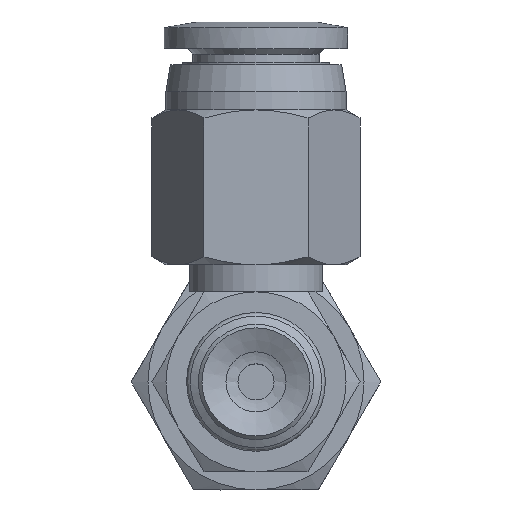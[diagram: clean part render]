
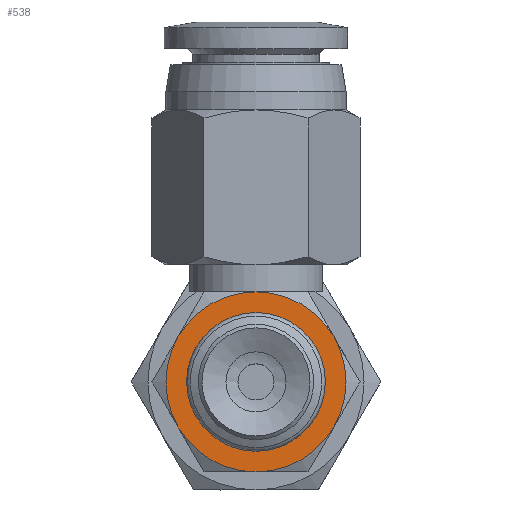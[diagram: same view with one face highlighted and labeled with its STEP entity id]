
A CAD part, front view. The second image highlights one B-rep face of the part: STEP entity #538.
In plain terms, the highlighted planar face has unit normal (0, -1, 0).
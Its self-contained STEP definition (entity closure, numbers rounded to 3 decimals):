
#538=ADVANCED_FACE('',(#814,#815),#816,.T.);
#814=FACE_BOUND('',#1222,.T.);
#815=FACE_OUTER_BOUND('',#1223,.T.);
#816=PLANE('',#1224);
#1222=EDGE_LOOP('',(#2259));
#1223=EDGE_LOOP('',(#2260,#2261,#2262,#2263,#2264,#2265));
#1224=AXIS2_PLACEMENT_3D('',#2266,#2267,#2268);
#2259=ORIENTED_EDGE('',*,*,#2919,.F.);
#2260=ORIENTED_EDGE('',*,*,#2926,.T.);
#2261=ORIENTED_EDGE('',*,*,#2869,.T.);
#2262=ORIENTED_EDGE('',*,*,#2924,.T.);
#2263=ORIENTED_EDGE('',*,*,#2932,.T.);
#2264=ORIENTED_EDGE('',*,*,#2853,.T.);
#2265=ORIENTED_EDGE('',*,*,#2867,.T.);
#2266=CARTESIAN_POINT('',(2.0,0.,0.0));
#2267=DIRECTION('',(0.0,-1.0,0.0));
#2268=DIRECTION('',(0.0,0.0,-1.0));
#2853=EDGE_CURVE('',#3200,#3214,#3216,.T.);
#2867=EDGE_CURVE('',#3214,#3238,#3241,.T.);
#2869=EDGE_CURVE('',#3243,#3231,#3244,.T.);
#2919=EDGE_CURVE('',#3329,#3329,#3330,.T.);
#2924=EDGE_CURVE('',#3231,#3217,#3338,.T.);
#2926=EDGE_CURVE('',#3238,#3243,#3340,.T.);
#2932=EDGE_CURVE('',#3217,#3200,#3349,.T.);
#3200=VERTEX_POINT('',#3982);
#3214=VERTEX_POINT('',#4008);
#3216=CIRCLE('',#4012,5.0);
#3217=VERTEX_POINT('',#4013);
#3231=VERTEX_POINT('',#4038);
#3238=VERTEX_POINT('',#4052);
#3241=CIRCLE('',#4057,5.0);
#3243=VERTEX_POINT('',#4061);
#3244=CIRCLE('',#4062,5.0);
#3329=VERTEX_POINT('',#4242);
#3330=CIRCLE('',#4243,2.0);
#3338=CIRCLE('',#4254,5.0);
#3340=CIRCLE('',#4256,5.0);
#3349=CIRCLE('',#4270,5.0);
#3982=CARTESIAN_POINT('',(-4.33,0.,2.5));
#4008=CARTESIAN_POINT('',(-4.33,0.0,-2.5));
#4012=AXIS2_PLACEMENT_3D('',#4911,#4912,#4913);
#4013=CARTESIAN_POINT('',(0.0,0.0,5.0));
#4038=CARTESIAN_POINT('',(4.33,0.0,2.5));
#4052=CARTESIAN_POINT('',(0.0,0.0,-5.0));
#4057=AXIS2_PLACEMENT_3D('',#4922,#4923,#4924);
#4061=CARTESIAN_POINT('',(4.33,0.0,-2.5));
#4062=AXIS2_PLACEMENT_3D('',#4925,#4926,#4927);
#4242=CARTESIAN_POINT('',(0.0,0.,-2.0));
#4243=AXIS2_PLACEMENT_3D('',#4994,#4995,#4996);
#4254=AXIS2_PLACEMENT_3D('',#5003,#5004,#5005);
#4256=AXIS2_PLACEMENT_3D('',#5009,#5010,#5011);
#4270=AXIS2_PLACEMENT_3D('',#5018,#5019,#5020);
#4911=CARTESIAN_POINT('',(0.0,0.,0.0));
#4912=DIRECTION('',(0.0,-1.0,0.0));
#4913=DIRECTION('',(0.0,0.0,-1.0));
#4922=CARTESIAN_POINT('',(0.0,0.,0.0));
#4923=DIRECTION('',(0.0,-1.0,0.0));
#4924=DIRECTION('',(0.0,0.0,-1.0));
#4925=CARTESIAN_POINT('',(0.0,0.,0.0));
#4926=DIRECTION('',(0.0,-1.0,0.0));
#4927=DIRECTION('',(0.0,0.0,-1.0));
#4994=CARTESIAN_POINT('',(0.0,0.,0.0));
#4995=DIRECTION('',(0.0,-1.0,0.0));
#4996=DIRECTION('',(0.0,0.0,-1.0));
#5003=CARTESIAN_POINT('',(0.0,0.,0.0));
#5004=DIRECTION('',(0.0,-1.0,0.0));
#5005=DIRECTION('',(0.0,0.0,-1.0));
#5009=CARTESIAN_POINT('',(0.0,0.,0.0));
#5010=DIRECTION('',(0.0,-1.0,0.0));
#5011=DIRECTION('',(0.0,0.0,-1.0));
#5018=CARTESIAN_POINT('',(0.0,0.,0.0));
#5019=DIRECTION('',(0.0,-1.0,0.0));
#5020=DIRECTION('',(0.0,0.0,-1.0));
